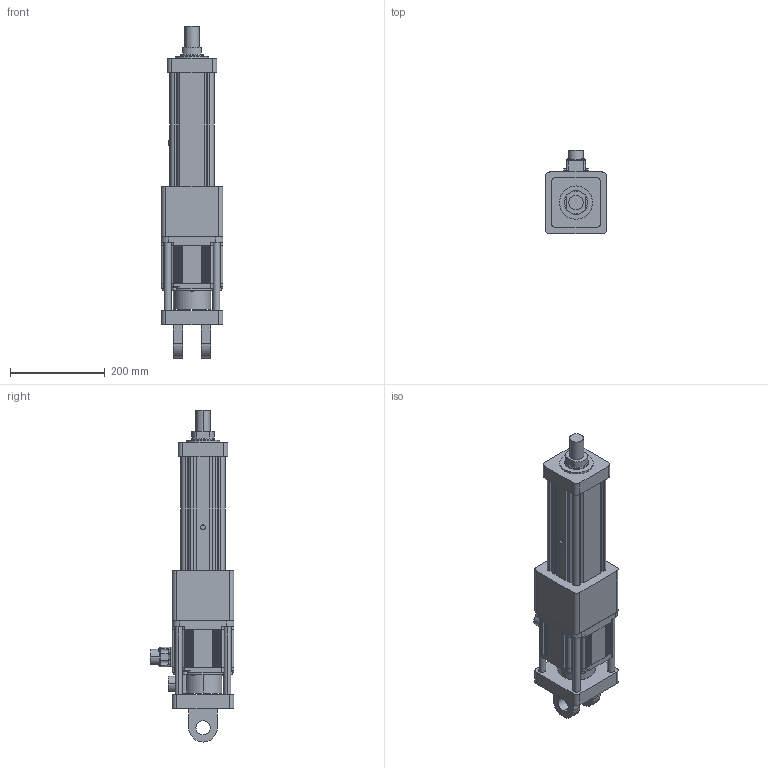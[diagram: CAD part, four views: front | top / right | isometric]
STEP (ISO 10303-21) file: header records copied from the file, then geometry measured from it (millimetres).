
FILE_DESCRIPTION (( 'STEP AP203' ), '1' );
FILE_NAME ('S4眻盄帣蝓假蚾.STEP', '2024-05-27T05:29:43', ( '' ), ( '' ), 'SwSTEP 2.0', 'SolidWorks 2018', '' );
FILE_SCHEMA (( 'CONFIG_CONTROL_DESIGN' ));
Length unit declared in the file: millimetre
Products named in the file (3): S4眻盄綴帣蝓; ECMA-FX1308ES-130框號系列機種-0.85KW高慣量系列; S4眻盄帣蝓假蚾
Assembly tree (2 placements, depth 2):
  S4眻盄帣蝓假蚾
    S4眻盄綴帣蝓
    ECMA-FX1308ES-130框號系列機種-0.85KW高慣量系列
Bounding box: 130 x 176.44 x 699 mm (x, y, z)
Volume: 5495861.5 mm3; surface area: 615677.3 mm2
Topology: 3 solids, 15 shells, 953 faces, 2280 edges, 1418 vertices
Faces by surface type: plane 417, cylinder 367, cone 101, torus 47, sphere 20, bspline 1
Entity records: 28532 total; most frequent: CARTESIAN_POINT 5512, DIRECTION 5026, ORIENTED_EDGE 4556, EDGE_CURVE 2278, AXIS2_PLACEMENT_3D 1871, VERTEX_POINT 1418, LINE 1284, VECTOR 1284
